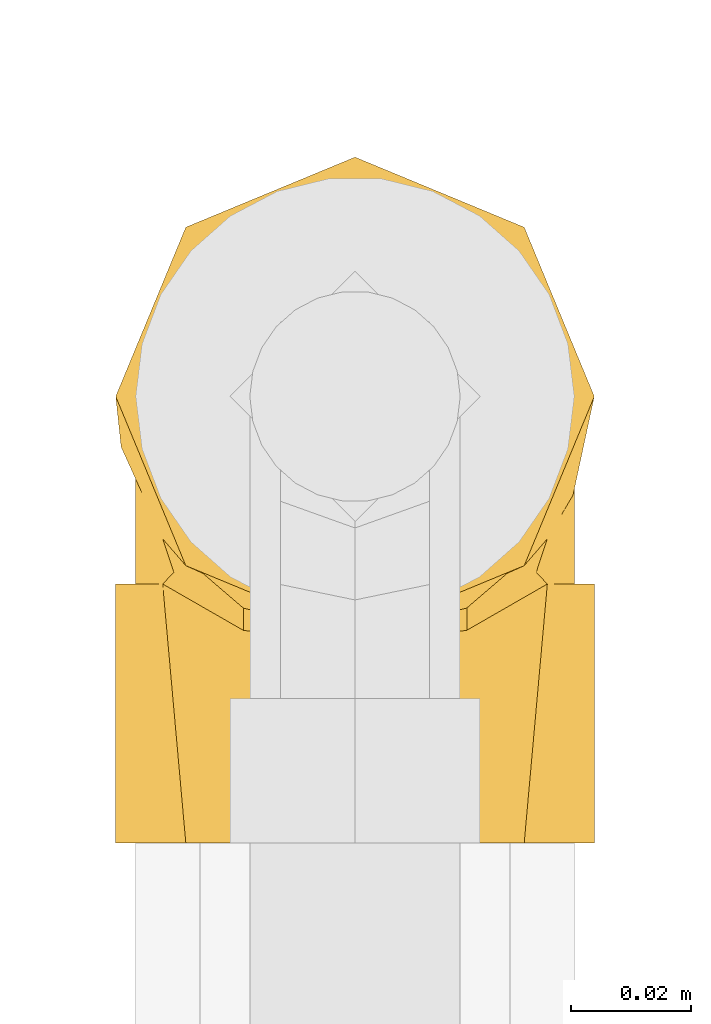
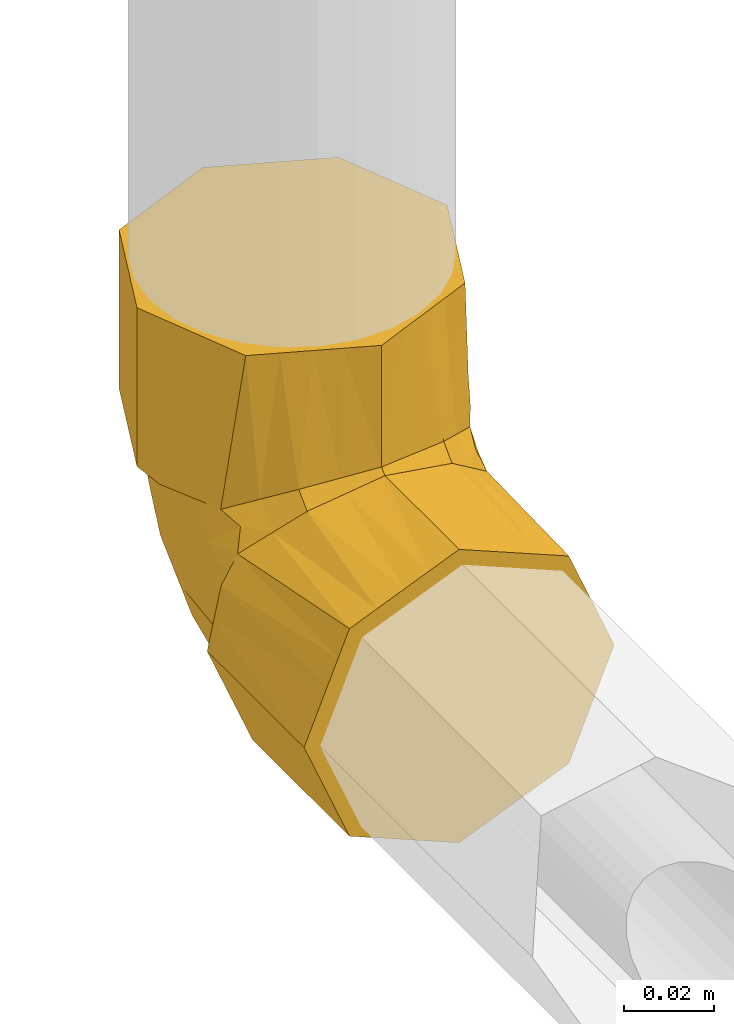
# One storey, part 270 of 652: 1 covering.
"""IFC2X3 building model written with IfcOpenShell, lengths in millimetres."""

from ifc_helpers import new_model, entity, si_unit, converted_unit, direction, frame, origin, place, context, subcontext, project, spatial, faceted_brep, material, type_object, element, save


model = new_model("IFC2X3")

# Units and contexts
model_context = context("Model", 3, precision=0.01, world=frame((0.0, 0.0, 308426.39999999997)), true_north=direction((6.123233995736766e-17, 1.0)))
plan_context = context("Plan", 3, precision=0.01, world=frame((0.0, 0.0, 308426.39999999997)), true_north=direction((6.123233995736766e-17, 1.0)))
body_context = subcontext(model_context, "Body", "Model", "MODEL_VIEW")
ifc_project = project(units=[si_unit("LENGTHUNIT", "METRE", prefix="MILLI"), si_unit("AREAUNIT", "SQUARE_METRE"), si_unit("VOLUMEUNIT", "CUBIC_METRE"), converted_unit("PLANEANGLEUNIT", "DEGREE", entity("IfcPlaneAngleMeasure", 0.017453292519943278), si_unit("PLANEANGLEUNIT", "RADIAN"), dimensions=[0, 0, 0, 0, 0, 0, 0])], contexts=[model_context, plan_context])

# Site, building, storey
site_placement = place(None, origin())
site = spatial("IfcSite", under=ifc_project, at=site_placement, Name="Default", CompositionType="ELEMENT")
building_placement = place(site_placement, origin())
building = spatial("IfcBuilding", under=site, at=building_placement, CompositionType="ELEMENT")
storey_placement = place(building_placement, frame((0.0, 0.0, 1730.6999999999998)))
storey = spatial("IfcBuildingStorey", under=building, at=storey_placement, Name="EG_Produktion_FFB", CompositionType="ELEMENT", Elevation=1730.6999999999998)

# Covering
ifc_material = material(Name="Dämmung - Armaflex-Schlauch")
covering_type = type_object("IfcCoveringType", Name="Rohrdämmung außen:Armaflex-Schlauch", PredefinedType="INSULATION")
covering_placement = place(storey_placement, frame((78488.604727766, 78674.61066098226, 3558.6047277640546)))
element("IfcCovering", 1, at=covering_placement, inside=storey, type_object=covering_type, material=ifc_material, Name="Rohrdämmung außen:Armaflex-Schlauch", ObjectType="Rohrdämmung außen:Armaflex-Schlauch", PredefinedType="INSULATION", context=body_context, shape_type="Brep", body=[
    faceted_brep([(76.69198954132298, 60.274884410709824, 72.5952722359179), (77.16404151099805, 64.29230202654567, 72.59527223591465), (77.89527223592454, 70.51547105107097, 72.5952722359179), (74.4532351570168, 78.15107734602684, 72.59527223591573), (71.01119807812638, 85.78668364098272, 72.59527223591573), (67.77734838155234, 92.96045967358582, 72.59527223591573), (64.5434986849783, 100.13423570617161, 72.5952722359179), (52.969385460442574, 104.38836473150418, 72.59527223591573), (41.395272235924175, 108.64249375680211, 72.5952722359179), (34.17467666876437, 104.99034516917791, 72.59527223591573), (26.954081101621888, 101.33819658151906, 72.59527223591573), (19.733485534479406, 97.68604799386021, 72.59527223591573), (12.512889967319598, 94.03389940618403, 72.5952722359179), (10.128351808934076, 86.67194035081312, 72.59527223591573), (7.511812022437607, 78.59370570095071, 72.59527223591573), (4.895272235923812, 70.51547105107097, 72.5952722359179), (5.6265029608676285, 64.29230202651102, 72.59527223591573), (6.09855493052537, 60.274884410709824, 72.5952722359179), (7.751839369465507, 55.42320232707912, 72.59527223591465), (9.405123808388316, 50.57152024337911, 72.5952722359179), (5.9482144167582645, 58.21191101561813, 72.5952722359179), (2.491305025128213, 65.85230178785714, 72.5952722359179), (1.5952722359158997, 74.24999999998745, 72.5952722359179), (4.909068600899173, 82.25021212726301, 72.5952722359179), (7.4238472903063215, 88.32142494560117, 72.5952722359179), (10.338134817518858, 95.35713741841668, 72.5952722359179), (13.252422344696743, 102.39284989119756, 72.5952722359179), (20.288134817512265, 105.3071374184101, 72.5952722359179), (27.32384729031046, 108.2214249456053, 72.5952722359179), (34.359559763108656, 111.13571247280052, 72.5952722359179), (41.395272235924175, 114.0499999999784, 72.5952722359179), (49.39548442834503, 110.73620360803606, 72.5952722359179), (55.466697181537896, 108.2214249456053, 72.5952722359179), (62.502409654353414, 105.3071374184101, 72.5952722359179), (69.53812212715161, 102.39284989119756, 72.5952722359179), (72.45240965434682, 95.35713741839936, 72.5952722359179), (75.36669718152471, 88.32142494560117, 72.5952722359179), (77.88147639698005, 82.25021085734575, 72.5952722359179), (81.19527223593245, 74.24999999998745, 72.5952722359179), (79.4257604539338, 66.04662283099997, 72.5952722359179), (77.65624867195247, 57.84324566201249, 72.5952722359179), (73.38542066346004, 50.57152024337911, 72.5952722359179), (75.03870510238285, 55.42320232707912, 72.59527223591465), (4.509559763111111, 67.21428752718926, 115.64527223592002), (7.4238472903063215, 60.17857505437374, 115.64527223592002), (10.338134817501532, 53.14286258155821, 115.64527223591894), (13.252422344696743, 46.10715010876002, 115.64527223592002), (20.28813481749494, 43.1928625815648, 115.64527223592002), (27.32384729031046, 40.2785750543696, 115.64527223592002), (33.395059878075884, 37.763796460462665, 115.64527223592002), (41.395272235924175, 34.44999999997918, 115.64527223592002), (49.39548296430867, 37.76379578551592, 115.64527223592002), (55.466697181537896, 40.2785750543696, 115.64527223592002), (62.502409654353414, 43.1928625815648, 115.64527223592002), (69.53812212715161, 46.10715010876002, 115.64527223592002), (72.45240965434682, 53.142862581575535, 115.64527223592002), (75.36669718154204, 60.17857505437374, 115.64527223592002), (78.28098470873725, 67.21428752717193, 115.64527223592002), (81.19527223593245, 74.24999999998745, 115.64527223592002), (78.28098470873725, 81.28571247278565, 115.64527223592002), (75.36669718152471, 88.32142494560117, 115.64527223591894), (72.45240965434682, 95.35713741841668, 115.64527223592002), (69.53812212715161, 102.39284989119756, 115.64527223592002), (62.502409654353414, 105.3071374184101, 115.64527223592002), (55.466697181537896, 108.22142494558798, 115.64527223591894), (48.43098470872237, 111.13571247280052, 115.64527223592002), (41.395272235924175, 114.0499999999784, 115.64527223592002), (34.359559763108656, 111.13571247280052, 115.64527223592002), (27.32384729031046, 108.2214249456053, 115.64527223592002), (20.28813481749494, 105.3071374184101, 115.64527223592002), (13.252422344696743, 102.39284989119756, 115.64527223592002), (8.222865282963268, 90.250425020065, 115.64527223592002), (4.909068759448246, 82.25021251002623, 115.64527223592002), (1.5952722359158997, 74.24999999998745, 115.64527223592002), (16.10717069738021, 44.81389553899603, 76.44407623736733), (41.395272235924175, 34.44999999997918, 82.67731282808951), (32.10224491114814, 36.753135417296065, 81.48509653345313), (22.809217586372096, 39.056270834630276, 80.29288023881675), (27.45573124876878, 37.9047031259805, 80.88898838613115), (66.68337377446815, 44.81389553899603, 76.44407623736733), (50.688299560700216, 36.753135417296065, 81.48509653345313), (59.98132688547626, 39.056270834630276, 80.29288023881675), (45.709172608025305, 35.51913456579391, 82.12387613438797), (81.19527223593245, 43.04999999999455, 41.39527223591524), (77.88147589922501, 43.04999999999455, 33.39506017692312), (75.36669718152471, 43.04999999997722, 27.32384729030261), (72.45240965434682, 43.04999999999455, 20.288134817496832), (69.53812212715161, 43.04999999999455, 13.252422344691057), (62.50240965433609, 43.04999999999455, 10.338134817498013), (55.466697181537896, 43.04999999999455, 7.4238472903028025), (49.39548303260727, 43.04999999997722, 4.909068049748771), (41.395272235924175, 43.04999999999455, 1.595272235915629), (33.39506041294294, 43.04999999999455, 4.9090684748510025), (27.32384729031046, 43.04999999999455, 7.4238472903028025), (20.288134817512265, 43.04999999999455, 10.338134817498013), (13.252422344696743, 43.04999999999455, 13.252422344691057), (10.338134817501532, 43.04999999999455, 20.288134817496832), (7.4238472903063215, 43.04999999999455, 27.32384729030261), (4.509559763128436, 43.04999999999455, 34.359559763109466), (1.5952722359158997, 43.04999999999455, 41.39527223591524), (3.3647978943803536, 43.04999999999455, 49.59868007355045), (5.134323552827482, 43.04999999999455, 57.80208791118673), (9.405123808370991, 43.04999999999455, 65.07375199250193), (7.751839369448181, 43.05000000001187, 60.22206990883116), (6.09855493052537, 43.04999999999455, 55.370387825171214), (5.626503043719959, 43.05000000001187, 51.35297091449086), (5.260887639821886, 43.05000000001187, 48.241386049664), (4.895272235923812, 43.04999999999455, 45.12980118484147), (8.233215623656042, 43.05000000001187, 37.72511002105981), (11.571159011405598, 43.05000000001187, 30.320418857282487), (14.90910239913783, 43.05000000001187, 22.91572769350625), (18.247045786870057, 43.04999999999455, 15.51103652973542), (24.034102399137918, 43.05000000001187, 13.383972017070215), (29.821159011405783, 43.05000000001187, 11.256907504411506), (41.395272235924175, 43.04999999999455, 7.002778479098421), (48.61586780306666, 43.05000000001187, 10.654927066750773), (55.83646337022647, 43.05000000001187, 14.30707565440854), (63.05705893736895, 43.05000000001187, 17.959224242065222), (70.27765450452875, 43.04999999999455, 21.611372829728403), (72.18205893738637, 43.05000000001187, 27.490979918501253), (74.08646337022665, 43.05000000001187, 33.37058700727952), (77.89527223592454, 43.04999999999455, 45.12980118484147), (77.5296568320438, 43.05000000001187, 48.24138604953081), (77.16404142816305, 43.05000000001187, 51.35297091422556), (76.69198954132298, 43.04999999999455, 55.370387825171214), (75.03870510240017, 43.05000000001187, 60.22206990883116), (73.38542066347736, 43.04999999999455, 65.07375199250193), (76.84232631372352, 43.04999999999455, 57.433378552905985), (80.29923196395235, 43.04999999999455, 49.793005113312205), (13.252422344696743, 0.0, 13.252422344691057), (25.394847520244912, 0.0, 8.222865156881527), (33.39505987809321, 0.0, 4.90906869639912), (41.395272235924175, 0.0, 1.595272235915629), (48.4309847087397, 0.0, 4.509559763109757), (55.466697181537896, 0.0, 7.4238472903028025), (62.502409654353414, 0.0, 10.33813481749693), (69.53812212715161, 0.0, 13.252422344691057), (72.45240965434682, 0.0, 20.288134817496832), (75.36669718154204, 0.0, 27.32384729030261), (78.28098470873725, 0.0, 34.359559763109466), (81.19527223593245, 0.0, 41.39527223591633), (78.28098470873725, 0.0, 48.43098470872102), (75.36669718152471, 0.0, 55.46669718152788), (72.45240965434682, 0.0, 62.502409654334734), (69.53812212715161, 0.0, 69.53812212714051), (62.50240965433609, 0.0, 72.45240965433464), (55.466697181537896, 0.0, 75.36669718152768), (49.395484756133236, 0.0, 77.8814757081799), (41.395272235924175, 0.0, 81.19527223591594), (33.395061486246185, 0.0, 77.88147644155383), (27.32384729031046, 0.0, 75.3666971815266), (20.28813481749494, 0.0, 72.45240965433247), (13.252422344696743, 0.0, 69.53812212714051), (10.338134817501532, 0.0, 62.502409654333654), (7.4238472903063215, 0.0, 55.46669718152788), (4.90906875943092, 0.0, 49.395484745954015), (1.5952722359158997, 0.0, 41.39527223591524), (4.509559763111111, 0.0, 34.359559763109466), (7.4238472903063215, 0.0, 27.32384729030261), (10.338134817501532, 0.0, 20.288134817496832), (41.395272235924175, 32.96795940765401, 81.19527223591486), (32.10224491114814, 34.16017570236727, 78.89213681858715), (22.809217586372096, 35.35239199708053, 76.58900140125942), (32.76747165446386, 34.07483277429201, 79.05700314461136), (16.10717069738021, 39.201195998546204, 70.83137669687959), (66.68337377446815, 39.201195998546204, 70.83137669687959), (50.688299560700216, 34.16017570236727, 78.89213681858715), (59.98132688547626, 35.35239199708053, 76.58900140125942), (50.02307281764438, 34.07483277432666, 79.0570031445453), (45.70917252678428, 33.52139609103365, 80.12613769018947), (12.134172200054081, 58.23247908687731, 28.206053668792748), (11.872305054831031, 86.42116019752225, 56.305462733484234), (8.381949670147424, 75.59755590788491, 50.75028825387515), (4.895272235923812, 63.92252865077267, 61.09574012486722), (5.713052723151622, 71.17681219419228, 57.98707832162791), (5.82258136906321, 60.44014498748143, 45.95077994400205), (14.291189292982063, 74.83060129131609, 36.88337413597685), (17.295947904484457, 90.7509220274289, 51.91196638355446), (41.395272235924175, 78.05964753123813, 23.773093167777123), (33.32279780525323, 68.73831739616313, 18.35640370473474), (32.96207522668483, 88.06243078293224, 34.59504635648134), (41.395272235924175, 100.99678220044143, 60.38972746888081), (31.958631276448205, 100.72281157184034, 53.852362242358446), (20.543012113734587, 79.36057207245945, 33.57875936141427), (4.895272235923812, 45.44339488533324, 46.960571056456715), (4.895272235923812, 47.836789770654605, 48.791340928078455), (4.895272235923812, 52.623579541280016, 52.452880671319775), (4.895272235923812, 53.48626432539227, 53.11277065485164), (4.895272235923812, 58.273054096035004, 56.77431039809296), (17.20428891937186, 60.59226921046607, 23.214744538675), (23.523091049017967, 91.05533751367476, 44.283571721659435), (22.506400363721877, 98.29864441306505, 58.15325374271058), (24.542849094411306, 69.72062004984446, 22.797790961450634), (26.881676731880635, 81.64353760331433, 30.874072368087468), (41.395272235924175, 60.554823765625, 15.387935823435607), (41.395272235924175, 59.36959978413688, 14.82019005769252), (41.395272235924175, 93.35107064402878, 48.184182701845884), (41.395272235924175, 89.63440863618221, 42.25093709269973), (41.395272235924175, 85.70535908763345, 35.97863793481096), (26.98314333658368, 57.76510271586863, 14.948660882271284), (8.925282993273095, 62.477618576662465, 36.867223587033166), (41.395272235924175, 99.13845119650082, 57.42310466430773), (4.895272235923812, 67.49149366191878, 67.32079492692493), (5.551365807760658, 59.666271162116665, 66.95210059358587), (6.7794642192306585, 54.38051617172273, 67.6808485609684), (41.395272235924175, 33.737362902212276, 81.9079093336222), (6.67492176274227, 51.58600444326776, 64.05926727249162), (11.256462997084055, 44.9882204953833, 70.65705203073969), (6.779464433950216, 47.964422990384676, 61.26475634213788), (5.565993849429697, 48.600669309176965, 56.00707165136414), (77.23917866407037, 59.66627116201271, 66.9521005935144), (77.89527223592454, 67.49149366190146, 67.3207949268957), (71.53408126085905, 44.988220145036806, 70.65705212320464), (76.11562236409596, 51.58600369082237, 64.05926802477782), (77.89527223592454, 58.27305409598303, 56.77431039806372), (76.0110802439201, 54.3805161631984, 67.68084859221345), (76.01108002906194, 47.96442295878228, 61.264756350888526), (77.22455062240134, 48.600669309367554, 56.007071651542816), (77.89527223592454, 47.83678977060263, 48.791340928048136), (77.89527223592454, 45.44339488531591, 46.96057105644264), (77.89527223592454, 52.62357954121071, 52.452880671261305), (77.89527223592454, 53.48626432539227, 53.11277065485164), (77.89527223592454, 63.92252865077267, 61.09574012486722), (74.88571901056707, 78.04877773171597, 55.93070336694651), (71.63741334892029, 85.86627113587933, 57.41477332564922), (75.88132954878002, 57.28853793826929, 39.07241371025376), (50.93896013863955, 85.39518385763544, 32.13864951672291), (66.01083955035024, 77.13544844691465, 35.61207145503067), (73.66837271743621, 68.41457314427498, 41.05493786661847), (68.18270760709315, 64.68516499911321, 28.565877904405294), (76.89386599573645, 64.86670611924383, 49.42123922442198), (76.90226649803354, 73.19566844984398, 59.57612792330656), (67.43892667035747, 85.81857944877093, 47.70689865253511), (60.25020692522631, 75.96028629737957, 28.826720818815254), (51.156391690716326, 65.77892171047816, 17.118194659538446), (60.07117178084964, 60.53986394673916, 18.653154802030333), (73.16342274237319, 57.39776429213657, 32.13514386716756), (58.19577940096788, 95.84113677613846, 50.73714499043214), (61.698892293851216, 86.4944008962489, 40.74201153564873), (66.04016185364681, 94.20624665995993, 59.56172140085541), (49.67803307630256, 97.22085117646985, 46.88832387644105)], [[[0, 1, 2, 3, 4, 5, 6, 7, 8, 9, 10, 11, 12, 13, 14, 15, 16, 17, 18, 19, 20, 21, 22, 23, 24, 25, 26, 27, 28, 29, 30, 31, 32, 33, 34, 35, 36, 37, 38, 39, 40, 41, 42]], [[43, 44, 45, 46, 47, 48, 49, 50, 51, 52, 53, 54, 55, 56, 57, 58, 59, 60, 61, 62, 63, 64, 65, 66, 67, 68, 69, 70, 71, 72, 73]], [[47, 46, 74]], [[75, 50, 49]], [[76, 75, 49]], [[48, 77, 78, 76]], [[47, 74, 77]], [[44, 20, 45]], [[43, 21, 44]], [[46, 19, 74]], [[77, 48, 47]], [[44, 21, 20]], [[43, 22, 21]], [[48, 76, 49]], [[43, 73, 22]], [[45, 20, 19]], [[19, 46, 45]], [[23, 22, 73, 72, 71, 70, 26, 25, 24]], [[26, 70, 69, 68, 67, 66, 30, 29, 28, 27]], [[38, 37, 36, 35, 34, 62, 61, 60, 59, 58]], [[30, 66, 65, 64, 63, 62, 34, 33, 32, 31]], [[56, 40, 39]], [[53, 79, 54]], [[39, 57, 56]], [[41, 55, 54]], [[40, 55, 41]], [[80, 52, 51]], [[52, 80, 81]], [[58, 57, 38]], [[51, 75, 82, 80]], [[38, 57, 39]], [[79, 53, 81]], [[55, 40, 56]], [[51, 50, 75]], [[53, 52, 81]], [[79, 41, 54]], [[83, 84, 85, 86, 87, 88, 89, 90, 91, 92, 93, 94, 95, 96, 97, 98, 99, 100, 101, 102, 103, 104, 105, 106, 107, 108, 109, 110, 111, 112, 113, 114, 115, 116, 117, 118, 119, 120, 121, 122, 123, 124, 125, 126, 127, 128]], [[129, 130, 131, 132, 133, 134, 135, 136, 137, 138, 139, 140, 141, 142, 143, 144, 145, 146, 147, 148, 149, 150, 151, 152, 153, 154, 155, 156, 157, 158, 159]], [[132, 131, 130, 129, 95, 94, 93, 92, 91]], [[95, 129, 159, 158, 157, 156, 99, 98, 97, 96]], [[156, 155, 154, 100]], [[101, 153, 102]], [[99, 156, 100]], [[101, 100, 154]], [[149, 148, 160]], [[102, 153, 152]], [[150, 161, 162]], [[161, 150, 149]], [[149, 160, 163, 161]], [[151, 164, 152]], [[164, 151, 162]], [[153, 101, 154]], [[151, 150, 162]], [[164, 102, 152]], [[145, 144, 165]], [[146, 166, 147]], [[166, 146, 167]], [[160, 148, 147]], [[145, 165, 167]], [[142, 127, 143]], [[141, 128, 142]], [[144, 126, 165]], [[167, 146, 145]], [[142, 128, 127]], [[141, 83, 128]], [[147, 166, 168, 169, 160]], [[141, 140, 83]], [[143, 127, 126]], [[126, 144, 143]], [[91, 90, 89, 88, 87, 136, 135, 134, 133, 132]], [[138, 137, 136, 87, 86, 85, 84, 83, 140, 139]], [[109, 170, 110]], [[13, 171, 172]], [[14, 13, 172]], [[173, 174, 175]], [[176, 171, 177]], [[15, 14, 174]], [[178, 179, 180]], [[9, 181, 182]], [[172, 175, 174]], [[13, 12, 171]], [[12, 11, 177]], [[176, 177, 183]], [[175, 107, 184, 185, 186, 187, 188, 173]], [[189, 170, 176]], [[176, 172, 171]], [[190, 191, 182]], [[11, 10, 191]], [[177, 11, 191]], [[170, 189, 110]], [[192, 183, 193]], [[179, 178, 194, 195]], [[182, 191, 10]], [[190, 182, 180]], [[177, 191, 190]], [[182, 10, 9]], [[182, 196, 180]], [[177, 190, 183]], [[177, 171, 12]], [[180, 196, 197, 198, 178]], [[113, 179, 195]], [[112, 111, 199, 113]], [[199, 111, 189]], [[195, 114, 113]], [[179, 192, 193]], [[200, 175, 172]], [[200, 108, 175]], [[172, 176, 200]], [[189, 111, 110]], [[200, 170, 109]], [[183, 189, 176]], [[108, 200, 109]], [[189, 192, 199]], [[108, 107, 175]], [[176, 170, 200]], [[193, 190, 180]], [[189, 183, 192]], [[190, 193, 183]], [[179, 193, 180]], [[181, 9, 8]], [[182, 181, 201, 196]], [[192, 179, 199]], [[179, 113, 199]], [[174, 173, 202, 15]], [[172, 174, 14]], [[173, 203, 202]], [[188, 204, 203]], [[17, 203, 18]], [[202, 17, 16, 15]], [[205, 76, 163]], [[74, 164, 162, 77]], [[163, 76, 78, 77, 162, 161]], [[206, 102, 207]], [[207, 164, 74]], [[106, 105, 104, 185, 184, 107]], [[206, 208, 102]], [[186, 185, 209, 188, 187]], [[205, 75, 76]], [[163, 160, 205]], [[206, 207, 19]], [[164, 207, 102]], [[19, 18, 204]], [[19, 207, 74]], [[202, 203, 17]], [[204, 206, 19]], [[203, 173, 188]], [[18, 203, 204]], [[102, 208, 103]], [[103, 209, 104]], [[208, 206, 188]], [[209, 103, 208]], [[209, 185, 104]], [[188, 209, 208]], [[204, 188, 206]], [[205, 160, 169]], [[210, 211, 0]], [[169, 168, 166, 167, 81, 80, 82]], [[41, 212, 213]], [[1, 0, 211, 2]], [[213, 214, 215]], [[205, 169, 82]], [[79, 165, 212]], [[126, 125, 216]], [[213, 212, 126]], [[205, 82, 75]], [[167, 165, 79, 81]], [[217, 124, 218]], [[210, 215, 214]], [[122, 121, 219, 218, 124, 123]], [[41, 79, 212]], [[212, 165, 126]], [[215, 41, 213]], [[125, 124, 217]], [[126, 216, 213]], [[125, 217, 216]], [[217, 218, 220, 221, 214]], [[215, 42, 41]], [[0, 42, 210]], [[211, 210, 222]], [[214, 213, 216]], [[210, 42, 215]], [[216, 217, 214]], [[210, 214, 222]], [[4, 223, 224]], [[121, 120, 225]], [[226, 178, 198, 197]], [[227, 228, 229]], [[230, 228, 223]], [[231, 222, 230]], [[224, 228, 232]], [[233, 234, 226]], [[3, 231, 223]], [[235, 234, 233]], [[236, 225, 120]], [[231, 2, 211, 222]], [[226, 237, 238]], [[4, 3, 223]], [[225, 221, 220, 218, 219, 121]], [[239, 224, 232]], [[6, 237, 7]], [[237, 6, 239]], [[240, 201, 7]], [[230, 225, 228]], [[226, 240, 237]], [[236, 228, 225]], [[229, 117, 235]], [[194, 234, 115]], [[226, 234, 178]], [[115, 114, 195, 194]], [[237, 239, 238]], [[240, 226, 197]], [[228, 224, 223]], [[224, 239, 5]], [[5, 239, 6]], [[5, 4, 224]], [[239, 232, 238]], [[7, 201, 181, 8]], [[7, 237, 240]], [[240, 197, 196, 201]], [[229, 118, 117]], [[194, 178, 234]], [[233, 238, 227]], [[235, 117, 116]], [[234, 235, 116]], [[229, 235, 233]], [[231, 3, 2]], [[230, 223, 231]], [[230, 222, 214, 221]], [[225, 230, 221]], [[119, 118, 236, 120]], [[236, 118, 229]], [[229, 228, 236]], [[234, 116, 115]], [[227, 238, 232]], [[226, 238, 233]], [[228, 227, 232]], [[233, 227, 229]]]),
])

save(model, "model.ifc")
